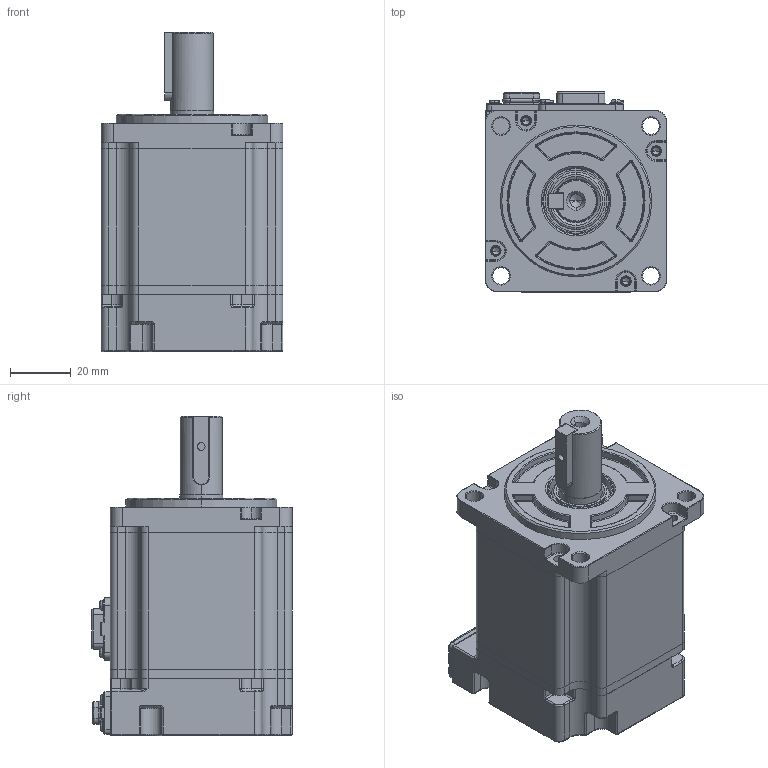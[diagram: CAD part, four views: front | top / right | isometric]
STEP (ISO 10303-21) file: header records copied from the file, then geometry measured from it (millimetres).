
FILE_DESCRIPTION (( 'STEP AP214' ), '1' );
FILE_NAME ('V7E-L06A-R2030-D1.STEP', '2021-08-09T02:46:04', ( '' ), ( '' ), 'SwSTEP 2.0', 'SolidWorks 2014', '' );
FILE_SCHEMA (( 'AUTOMOTIVE_DESIGN' ));
Length unit declared in the file: millimetre
Products named in the file (10): 儂褲E06B101AA1-45; ヶ傷裔E06B102QA1; 普通型 平键   C 5x5x22.5 带M3起键螺钉孔; 粣芛; 綴傷裔E06B102HA1; 蚐猾 D00B999YF2-TC 15-22-5; V7E-L06A-R2030-D1; 晤鎢ん欶E06B106BA1; 60-80蚳蚚雄薯脣釱-sc-mc6p-ac-goubanchazuo; SC40陔晤鎢ん瑤脣釱sc-mc7p-a6-zhichuxianchazuo
Assembly tree (9 placements, depth 2):
  V7E-L06A-R2030-D1
    儂褲E06B101AA1-45
    晤鎢ん欶E06B106BA1
    綴傷裔E06B102HA1
    ヶ傷裔E06B102QA1
    蚐猾 D00B999YF2-TC 15-22-5
    粣芛
    SC40陔晤鎢ん瑤脣釱sc-mc7p-a6-zhichuxianchazuo
    60-80蚳蚚雄薯脣釱-sc-mc6p-ac-goubanchazuo
    普通型 平键   C 5x5x22.5 带M3起键螺钉孔
Bounding box: 60 x 66.1 x 105.5 mm (x, y, z)
Volume: 104139.5 mm3; surface area: 66985.2 mm2
Topology: 18 solids, 18 shells, 3456 faces, 8750 edges, 5388 vertices
Faces by surface type: plane 1633, cylinder 1185, bspline 286, cone 171, torus 143, sphere 38
Entity records: 127740 total; most frequent: CARTESIAN_POINT 45005, ORIENTED_EDGE 17318, DIRECTION 16495, EDGE_CURVE 8659, AXIS2_PLACEMENT_3D 5572, VERTEX_POINT 5380, LINE 5351, VECTOR 5351
